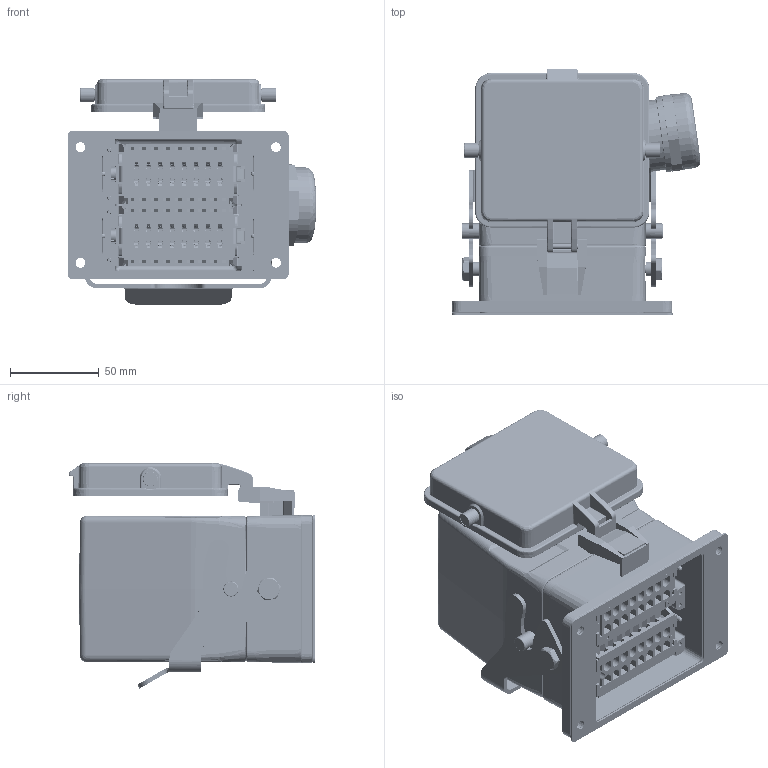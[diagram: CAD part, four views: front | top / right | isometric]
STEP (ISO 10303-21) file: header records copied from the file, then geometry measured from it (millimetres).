
FILE_DESCRIPTION (( 'STEP AP214' ), '1' );
FILE_NAME ('09032105132P HE、32针、开孔带盖底座、侧出M32套件、配塑料接头.STEP', '2024-04-29T06:00:18', ( 'L' ), ( '' ), 'SwSTEP 2.0', 'SolidWorks 2019', '' );
FILE_SCHEMA (( 'AUTOMOTIVE_DESIGN' ));
Length unit declared in the file: millimetre
Products named in the file (8): HE-016-MD.stp; FAS-32-P.step; H32B-AD-LB.step; 09032105132P HE、32针、开孔带盖底座、侧出M32套件、配塑料接头; HE-016-F.stp; HE-016-FD.stp; H32B-TS-RO-M32.step; HE-016-M.stp
Assembly tree (7 placements, depth 2):
  09032105132P HE、32针、开孔带盖底座、侧出M32套件、配塑料接头
    HE-016-M.stp
    HE-016-F.stp
    HE-016-MD.stp
    HE-016-FD.stp
    FAS-32-P.step
    H32B-AD-LB.step
    H32B-TS-RO-M32.step
Bounding box: 139.93 x 138.64 x 126.75 mm (x, y, z)
Volume: 478372.8 mm3; surface area: 289134.6 mm2
Topology: 7 solids, 15 shells, 12484 faces, 34474 edges, 21911 vertices
Faces by surface type: plane 5930, bspline 2448, cylinder 2081, cone 1530, torus 403, sphere 92
Entity records: 534153 total; most frequent: CARTESIAN_POINT 198956, ORIENTED_EDGE 68054, DIRECTION 52250, EDGE_CURVE 34027, VERTEX_POINT 21843, VECTOR 18008, LINE 18008, AXIS2_PLACEMENT_3D 17121
